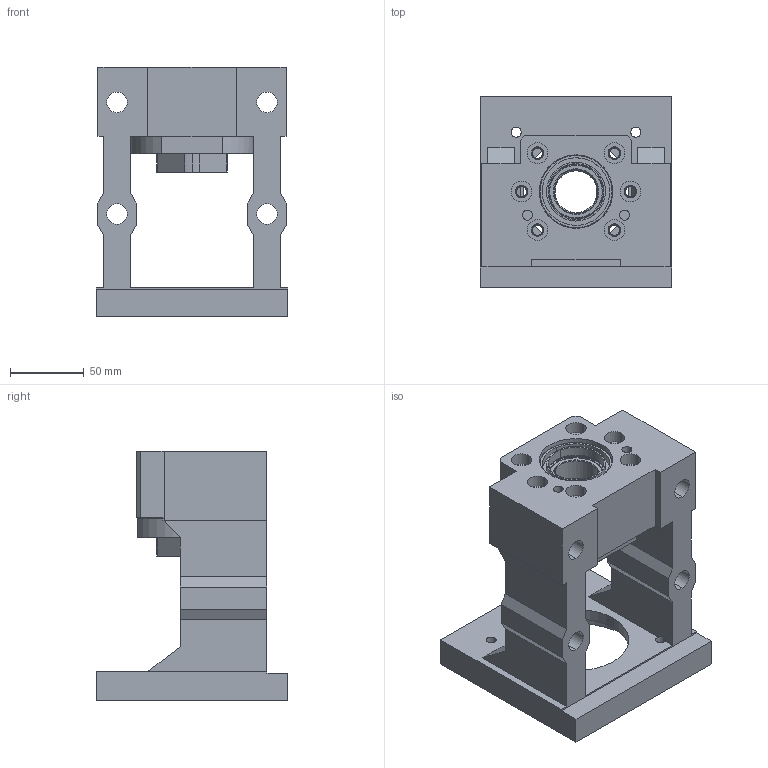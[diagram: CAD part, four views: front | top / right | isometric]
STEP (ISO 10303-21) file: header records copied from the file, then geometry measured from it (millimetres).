
FILE_DESCRIPTION (( 'STEP AP203' ), '1' );
FILE_NAME ('MBC30-Y.STEP', '2021-10-28T07:36:03', ( '' ), ( '' ), 'SwSTEP 2.0', 'SolidWorks 2018', '' );
FILE_SCHEMA (( 'CONFIG_CONTROL_DESIGN' ));
Length unit declared in the file: millimetre
Products named in the file (1): MBC30-Y
Bounding box: 130 x 130 x 170 mm (x, y, z)
Surface area: 152237.9 mm2 (no closed solid volume)
Topology: 0 solids, 20 shells, 254 faces, 698 edges, 460 vertices
Faces by surface type: cylinder 92, plane 87, cone 31, torus 20, sphere 20, bspline 4
Entity records: 8312 total; most frequent: CARTESIAN_POINT 1865, DIRECTION 1424, ORIENTED_EDGE 1194, EDGE_CURVE 648, AXIS2_PLACEMENT_3D 561, VERTEX_POINT 430, EDGE_LOOP 316, CIRCLE 310
